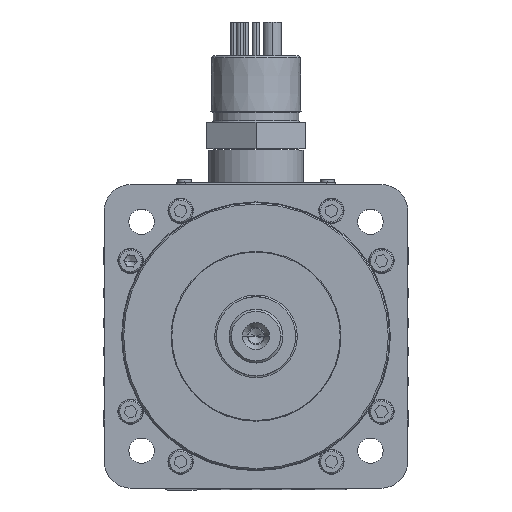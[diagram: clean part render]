
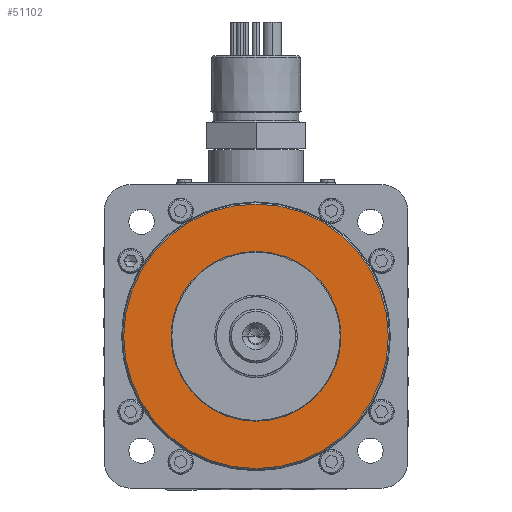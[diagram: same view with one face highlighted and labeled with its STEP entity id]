
A CAD part, top view. The second image highlights one B-rep face of the part: STEP entity #51102.
In plain terms, the highlighted planar face has unit normal (0, 0, 1).
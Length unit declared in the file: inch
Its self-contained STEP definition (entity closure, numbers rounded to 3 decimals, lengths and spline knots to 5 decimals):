
#8570 = CARTESIAN_POINT ( 'NONE',  ( 0., 1.188, 0. ) ) ;
#8572 = PLANE ( 'NONE',  #18918 ) ;
#8577 = DIRECTION ( 'NONE',  ( 0., 0., -1. ) ) ;
#8579 = DIRECTION ( 'NONE',  ( -1., 0., 0. ) ) ;
#12754 = FACE_BOUND ( 'NONE', #66908, .T. ) ;
#12761 = FACE_OUTER_BOUND ( 'NONE', #69553, .T. ) ;
#14673 = ORIENTED_EDGE ( 'NONE', *, *, #64541, .T. ) ;
#14777 = ORIENTED_EDGE ( 'NONE', *, *, #64327, .F. ) ;
#15105 = ORIENTED_EDGE ( 'NONE', *, *, #64481, .T. ) ;
#15313 = CARTESIAN_POINT ( 'NONE',  ( 0., 0., 0. ) ) ;
#15319 = DIRECTION ( 'NONE',  ( 0., 0., 1. ) ) ;
#15320 = DIRECTION ( 'NONE',  ( 1., 0., 0. ) ) ;
#16085 = CARTESIAN_POINT ( 'NONE',  ( 0., 0., 0. ) ) ;
#16091 = DIRECTION ( 'NONE',  ( 0., 0., 1. ) ) ;
#16093 = DIRECTION ( 'NONE',  ( 1., 0., 0. ) ) ;
#18036 = EDGE_CURVE ( 'NONE', #41582, #41587, #41067, .T. ) ;
#18918 = AXIS2_PLACEMENT_3D ( 'NONE', #8570, #8577, #8579 ) ;
#19217 = AXIS2_PLACEMENT_3D ( 'NONE', #15313, #15319, #15320 ) ;
#20467 = CIRCLE ( 'NONE', #19217, 1.188 ) ;
#28607 = CARTESIAN_POINT ( 'NONE',  ( 0., 0., 0. ) ) ;
#28622 = DIRECTION ( 'NONE',  ( 0., 0., 1. ) ) ;
#28623 = DIRECTION ( 'NONE',  ( 1., 0., 0. ) ) ;
#41067 = CIRCLE ( 'NONE', #72769, 1.188 ) ;
#41569 = VERTEX_POINT ( 'NONE', #43746 ) ;
#41575 = VERTEX_POINT ( 'NONE', #43638 ) ;
#41582 = VERTEX_POINT ( 'NONE', #43624 ) ;
#41587 = VERTEX_POINT ( 'NONE', #43702 ) ;
#43624 = CARTESIAN_POINT ( 'NONE',  ( -1.188, 0., 0. ) ) ;
#43638 = CARTESIAN_POINT ( 'NONE',  ( -1.8501, 0., 0. ) ) ;
#43702 = CARTESIAN_POINT ( 'NONE',  ( 1.188, 0., 0. ) ) ;
#43746 = CARTESIAN_POINT ( 'NONE',  ( 1.8501, 0., 0. ) ) ;
#44198 = AXIS2_PLACEMENT_3D ( 'NONE', #16085, #16091, #16093 ) ;
#44305 = AXIS2_PLACEMENT_3D ( 'NONE', #28607, #28622, #28623 ) ;
#47399 = CIRCLE ( 'NONE', #44198, 1.8501 ) ;
#47473 = CIRCLE ( 'NONE', #44305, 1.8501 ) ;
#51102 = ADVANCED_FACE ( 'NONE', ( #12754, #12761 ), #8572, .F. ) ;
#63683 = ORIENTED_EDGE ( 'NONE', *, *, #18036, .F. ) ;
#64327 = EDGE_CURVE ( 'NONE', #41587, #41582, #20467, .T. ) ;
#64481 = EDGE_CURVE ( 'NONE', #41575, #41569, #47399, .T. ) ;
#64541 = EDGE_CURVE ( 'NONE', #41569, #41575, #47473, .T. ) ;
#66908 = EDGE_LOOP ( 'NONE', ( #14777, #63683 ) ) ;
#67947 = DIRECTION ( 'NONE',  ( 0., 0., 1. ) ) ;
#67948 = DIRECTION ( 'NONE',  ( 1., 0., 0. ) ) ;
#67954 = CARTESIAN_POINT ( 'NONE',  ( 0., 0., 0. ) ) ;
#69553 = EDGE_LOOP ( 'NONE', ( #15105, #14673 ) ) ;
#72769 = AXIS2_PLACEMENT_3D ( 'NONE', #67954, #67947, #67948 ) ;
